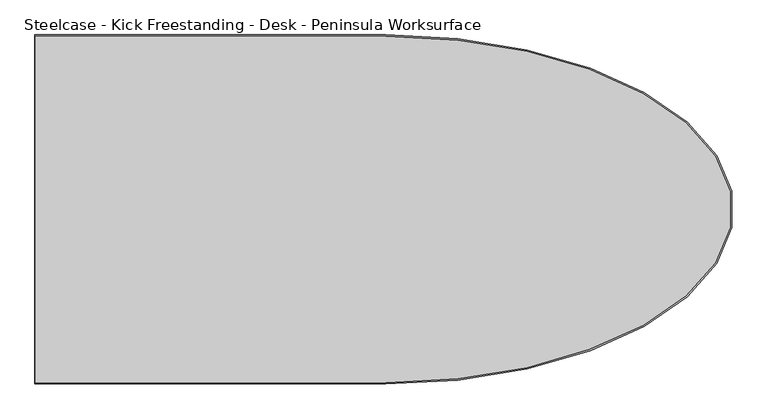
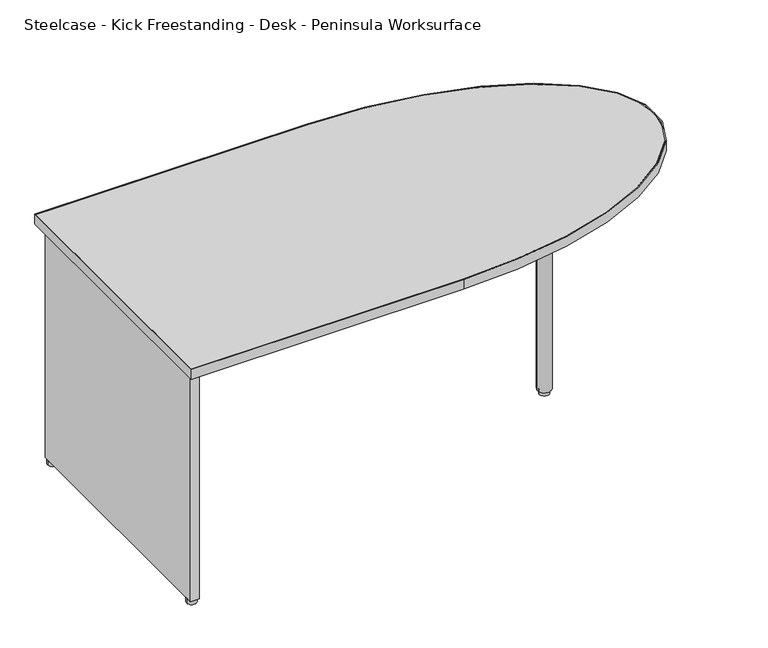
"""IFC4 building model written with IfcOpenShell, lengths in millimetres: furniture geometry, Steelcase - Kick Freestanding - Desk - Peninsula Worksurface : 30D x 60W."""

from ifc_helpers import new_model, si_unit, point, frame, frame_2d, origin, origin_with_axes, place, context, project, spatial, polyline, circle_curve, ellipse_curve, trimmed, segment, composite_curve, outline, extrude, source, transform, mapped, element, save
from ifc_brep_helpers import plane_surface, extruded_surface, advanced_brep


def steelcase_kick_freestanding_desk_peninsula_worksurface_260cb5ea(model_context):
    return source(origin(), model_context, "Body", "SolidModel", [
        extrude(outline(composite_curve([segment(trimmed(circle_curve(frame_2d((3375.1854425, -927.8063303)), 13.97), [point((3361.2154425, -927.8063303))], [point((3389.1554425, -927.8063303))], False, "CARTESIAN"), True, "CONTINUOUS"), segment(trimmed(circle_curve(frame_2d((3375.1854425, -927.8063303)), 13.97), [point((3389.1554425, -927.8063303))], [point((3361.2154425, -927.8063303))], False, "CARTESIAN"), True, "CONTINUOUS")], self_intersect=False)), origin_with_axes(), (0.0, 0.0, 1.0), 12.5222),
        extrude(outline(composite_curve([segment(trimmed(circle_curve(frame_2d((3375.1854425, -927.7998125)), 19.05), [point((3356.1354425, -927.7998125))], [point((3394.2354425, -927.7998125))], False, "CARTESIAN"), True, "CONTINUOUS"), segment(trimmed(circle_curve(frame_2d((3375.1854425, -927.7998125)), 19.05), [point((3394.2354425, -927.7998125))], [point((3356.1354425, -927.7998125))], False, "CARTESIAN"), True, "CONTINUOUS")], self_intersect=False)), frame((0.0, 0.0, 12.5222), z_axis=(0.0, 0.0, 1.0), x_axis=(1.0, 0.0, 0.0)), (0.0, 0.0, 1.0), 682.4218),
        extrude(outline(composite_curve([segment(trimmed(circle_curve(frame_2d((2188.6643434, -589.5500339)), 13.97), [point((2174.6943434, -589.5500339))], [point((2202.6343434, -589.5500339))], False, "CARTESIAN"), True, "CONTINUOUS"), segment(trimmed(circle_curve(frame_2d((2188.6643434, -589.5500339)), 13.97), [point((2202.6343434, -589.5500339))], [point((2174.6943434, -589.5500339))], False, "CARTESIAN"), True, "CONTINUOUS")], self_intersect=False)), origin_with_axes(), (0.0, 0.0, 1.0), 12.5222),
        extrude(outline(composite_curve([segment(trimmed(circle_curve(frame_2d((2188.6465467, -1265.8952821)), 13.97), [point((2174.6765467, -1265.8952821))], [point((2202.6165467, -1265.8952821))], False, "CARTESIAN"), True, "CONTINUOUS"), segment(trimmed(circle_curve(frame_2d((2188.6465467, -1265.8952821)), 13.97), [point((2202.6165467, -1265.8952821))], [point((2174.6765467, -1265.8952821))], False, "CARTESIAN"), True, "CONTINUOUS")], self_intersect=False)), origin_with_axes(), (0.0, 0.0, 1.0), 12.5222),
        advanced_brep(
        [(2163.8594425, -546.8145152, 723.9), (2163.8594425, -1308.8145152, 723.9), (2928.2978111, -1308.8145152, 723.9), (2928.2978111, -546.8145152, 723.9), (2164.8500425, -549.7863152, 723.9), (2928.2978111, -549.7863152, 723.9), (2928.2978111, -1305.8427489, 723.9), (2164.8500425, -1305.8427489, 723.9), (2163.8594425, -546.8145152, 694.944), (2928.2978111, -546.8145152, 694.944), (2928.2978111, -1308.8145152, 694.944), (2163.8594425, -1308.8145152, 694.944), (2164.8500425, -549.7863152, 694.944), (2164.8500425, -1305.8427489, 694.944), (2928.2978111, -1305.8427489, 694.944), (2928.2978111, -549.7863152, 694.944)],
        [
            (0, 1),
            (1, 2),
            (2, 3, ellipse_curve(frame((2928.2978111, -927.8145152, 723.9), z_axis=(0.0, 0.0, 1.0), x_axis=(-1.0, 0.0, 0.0)), 759.0188112, 381.0)),
            (3, 0),
            (4, 5),
            (5, 6, ellipse_curve(frame((2928.2978111, -927.8145321, 723.9), z_axis=(0.0, 0.0, -1.0), x_axis=(-1.0, 0.0, 0.0)), 755.65, 378.0282168)),
            (6, 7),
            (7, 4),
            (8, 9),
            (9, 10, ellipse_curve(frame((2928.2978111, -927.8145152, 694.944), z_axis=(0.0, 0.0, -1.0), x_axis=(0.0, 1.0, 0.0)), 381.0, 759.0188112)),
            (10, 11),
            (11, 8),
            (12, 13),
            (13, 14),
            (14, 15, ellipse_curve(frame((2928.2978111, -927.8145321, 694.944), z_axis=(0.0, 0.0, 1.0), x_axis=(-1.0, 0.0, 0.0)), 755.65, 378.0282168)),
            (15, 12),
            (0, 8),
            (11, 1),
            (10, 2),
            (9, 3),
            (4, 12),
            (15, 5),
            (14, 6),
            (13, 7),
        ],
        [
            plane_surface(frame((2163.8594425, -546.8145152, 723.9), z_axis=(0.0, 0.0, 1.0), x_axis=(0.0, -1.0, 0.0))),
            plane_surface(frame((2163.8594425, -546.8145152, 694.944), z_axis=(0.0, 0.0, -1.0), x_axis=(0.0, 1.0, 0.0))),
            plane_surface(frame((2163.8594425, -546.8145152, 723.9), z_axis=(-1.0, 0.0, 0.0), x_axis=(0.0, 0.0, -1.0))),
            plane_surface(frame((2163.8594425, -1308.8145152, 723.9), z_axis=(0.0, -1.0, 0.0), x_axis=(0.0, 0.0, -1.0))),
            extruded_surface(trimmed(ellipse_curve(frame((2928.2978111, -927.8145152, 665.988), z_axis=(0.0, 0.0, 1.0), x_axis=(0.0, 1.0, 0.0)), 381.0, 759.0188112), [point((2928.2978111, -1308.8145152, 665.988))], [point((2928.2978111, -546.8145152, 665.988))], True, "CARTESIAN"), (0.0, 0.0, 28.955999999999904), 28.955999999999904),
            plane_surface(frame((2928.2978111, -546.8145152, 723.9), z_axis=(0.0, 1.0, 0.0), x_axis=(0.0, 0.0, -1.0))),
            plane_surface(frame((2164.8500425, -549.7863152, 723.9), z_axis=(0.0, -1.0, 0.0), x_axis=(0.0, 0.0, -1.0))),
            extruded_surface(trimmed(ellipse_curve(frame((2928.2978111, -927.8145321, -28.956), z_axis=(0.0, 0.0, -1.0), x_axis=(0.0, -1.0, 0.0)), 378.0282168, 755.65), [point((2928.2978111, -549.7863152, -28.956))], [point((2928.2978111, -1305.8427489, -28.956))], True, "CARTESIAN"), (0.0, 0.0, 28.956), 28.956),
            plane_surface(frame((2928.2978111, -1305.8427489, 723.9), z_axis=(0.0, 1.0, 0.0), x_axis=(0.0, 0.0, -1.0))),
            plane_surface(frame((2164.8500425, -1305.8427489, 723.9), z_axis=(1.0, 0.0, 0.0), x_axis=(0.0, 0.0, -1.0))),
        ],
        [
            (0, [[1, 2, 3, 4], [5, 6, 7, 8]]),
            (1, [[9, 10, 11, 12], [13, 14, 15, 16]]),
            (2, [[-1, 17, -12, 18]]),
            (3, [[-2, -18, -11, 19]]),
            (4, [[-3, -19, -10, 20]]),
            (5, [[-4, -20, -9, -17]]),
            (6, [[-5, 21, -16, 22]]),
            (7, [[-6, -22, -15, 23]]),
            (8, [[-7, -23, -14, 24]]),
            (9, [[-8, -24, -13, -21]]),
        ],
    ),
        advanced_brep(
        [(2928.2978111, -1305.8427489, 723.9), (2928.2978111, -549.7863152, 723.9), (2164.8500425, -549.7863152, 723.9), (2164.8500425, -1305.8427489, 723.9), (2928.2978111, -1305.8427489, 694.944), (2164.8500425, -1305.8427489, 694.944), (2164.8500425, -549.7863152, 694.944), (2928.2978111, -549.7863152, 694.944)],
        [
            (0, 1, ellipse_curve(frame((2928.2978111, -927.8145321, 723.9), z_axis=(0.0, 0.0, 1.0), x_axis=(1.0, 0.0, 0.0)), 755.65, 378.0282168)),
            (1, 2),
            (2, 3),
            (3, 0),
            (4, 5),
            (5, 6),
            (6, 7),
            (7, 4, ellipse_curve(frame((2928.2978111, -927.8145321, 694.944), z_axis=(0.0, 0.0, -1.0), x_axis=(0.0, -1.0, 0.0)), 378.0282168, 755.65)),
            (0, 4),
            (7, 1),
            (6, 2),
            (5, 3),
        ],
        [
            plane_surface(frame((2928.2978111, -1305.8427489, 723.9), z_axis=(0.0, 0.0, 1.0), x_axis=(1.0, 0.0, 0.0))),
            plane_surface(frame((2928.2978111, -1305.8427489, 694.944), z_axis=(0.0, 0.0, -1.0), x_axis=(-1.0, 0.0, 0.0))),
            extruded_surface(trimmed(ellipse_curve(frame((2928.2978111, -927.8145321, 665.988), z_axis=(0.0, 0.0, 1.0), x_axis=(0.0, -1.0, 0.0)), 378.0282168, 755.65), [point((2928.2978111, -1305.8427489, 665.988))], [point((2928.2978111, -549.7863152, 665.988))], True, "CARTESIAN"), (0.0, 0.0, 28.955999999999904), 28.955999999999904),
            plane_surface(frame((2928.2978111, -549.7863152, 723.9), z_axis=(0.0, 1.0, 0.0), x_axis=(0.0, 0.0, -1.0))),
            plane_surface(frame((2164.8500425, -549.7863152, 723.9), z_axis=(-1.0, 0.0, 0.0), x_axis=(0.0, 0.0, -1.0))),
            plane_surface(frame((2164.8500425, -1305.8427489, 723.9), z_axis=(0.0, -1.0, 0.0), x_axis=(0.0, 0.0, -1.0))),
        ],
        [
            (0, [[1, 2, 3, 4]]),
            (1, [[5, 6, 7, 8]]),
            (2, [[-1, 9, -8, 10]]),
            (3, [[-2, -10, -7, 11]]),
            (4, [[-3, -11, -6, 12]]),
            (5, [[-4, -12, -5, -9]]),
        ],
    ),
        extrude(outline(polyline([(2200.9434425, -574.3735161), (2200.9434425, -688.2671183), (2179.9630426, -688.2671183), (2179.9630426, -787.936716), (2200.9434425, -787.936716), (2200.9434425, -1067.6923144), (2179.9630426, -1067.6923144), (2179.9630426, -1167.3618848), (2200.9434425, -1167.3618848), (2200.9434425, -1281.2555142), (2176.5594429, -1281.2555142), (2176.5594429, -574.3735161), (2200.9434425, -574.3735161)])), frame((0.0, 0.0, 12.5222), z_axis=(0.0, 0.0, 1.0), x_axis=(1.0, 0.0, 0.0)), (0.0, 0.0, 1.0), 682.4218),
    ])


if __name__ == "__main__":
    model = new_model("IFC4")
    model_context = context("Model", 3, world=origin())
    ifc_project = project(units=[si_unit("LENGTHUNIT", "METRE", prefix="MILLI")], contexts=[model_context])
    site = spatial("IfcSite", under=ifc_project)
    building = spatial("IfcBuilding", under=site)
    placement = place(None, origin())
    steelcase_kick_freestanding_desk_peninsula_worksurface_shape = steelcase_kick_freestanding_desk_peninsula_worksurface_260cb5ea(model_context)
    element("IfcFurniture", 1, ObjectType="Steelcase - Kick Freestanding - Desk - Peninsula Worksurface : 30D x 60W", at=placement, inside=building, context=model_context, shape_type="MappedRepresentation", body=[
        mapped(steelcase_kick_freestanding_desk_peninsula_worksurface_shape, transform((0.0, 0.0, 0.0), x_axis=(1.0, 0.0, 0.0), y_axis=(0.0, 1.0, 0.0), z_axis=(0.0, 0.0, 1.0))),
    ])
    save(model, "model.ifc")
